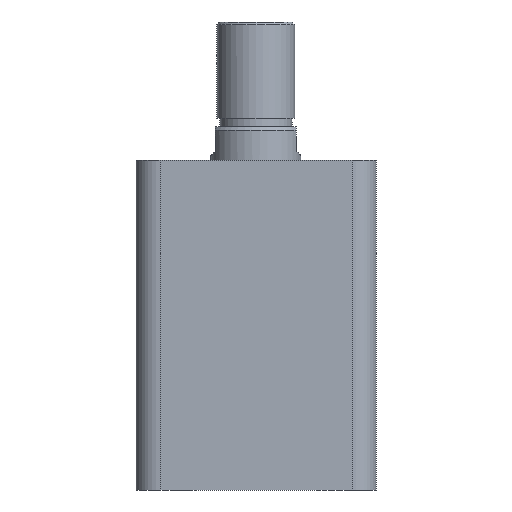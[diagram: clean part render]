
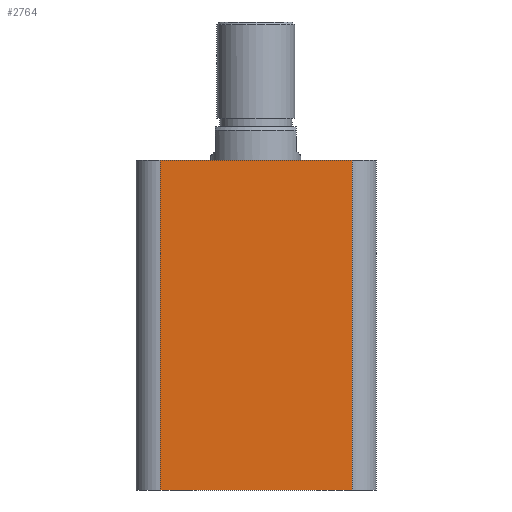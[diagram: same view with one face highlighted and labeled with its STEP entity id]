
A CAD part, front view. The second image highlights one B-rep face of the part: STEP entity #2764.
In plain terms, the highlighted planar face has unit normal (0, -1, 0).
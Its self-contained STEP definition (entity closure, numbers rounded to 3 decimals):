
#48 = DIRECTION ( 'NONE',  ( 1., 0., 0. ) ) ;
#50 = CARTESIAN_POINT ( 'NONE',  ( -40., -40., 110. ) ) ;
#51 = DIRECTION ( 'NONE',  ( 0., 0., -1. ) ) ;
#54 = CARTESIAN_POINT ( 'NONE',  ( -32., -40., 110. ) ) ;
#59 = DIRECTION ( 'NONE',  ( 1., 0., 0. ) ) ;
#66 = CARTESIAN_POINT ( 'NONE',  ( 32., -40., 110. ) ) ;
#67 = CARTESIAN_POINT ( 'NONE',  ( -40., -40., 0. ) ) ;
#93 = DIRECTION ( 'NONE',  ( 0., 0., 1. ) ) ;
#137 = CARTESIAN_POINT ( 'NONE',  ( -32., -40., 110. ) ) ;
#139 = CARTESIAN_POINT ( 'NONE',  ( -32., -40., 0. ) ) ;
#159 = CARTESIAN_POINT ( 'NONE',  ( 32., -40., 0. ) ) ;
#215 = CARTESIAN_POINT ( 'NONE',  ( 32., -40., 110. ) ) ;
#279 = VERTEX_POINT ( 'NONE', #215 ) ;
#407 = VERTEX_POINT ( 'NONE', #159 ) ;
#469 = VERTEX_POINT ( 'NONE', #139 ) ;
#474 = VERTEX_POINT ( 'NONE', #137 ) ;
#628 = VECTOR ( 'NONE', #48, 1000. ) ;
#630 = VECTOR ( 'NONE', #51, 1000. ) ;
#631 = LINE ( 'NONE', #50, #628 ) ;
#633 = VECTOR ( 'NONE', #59, 1000. ) ;
#637 = LINE ( 'NONE', #66, #640 ) ;
#640 = VECTOR ( 'NONE', #93, 1000. ) ;
#643 = LINE ( 'NONE', #54, #630 ) ;
#645 = LINE ( 'NONE', #67, #633 ) ;
#680 = EDGE_CURVE ( 'NONE', #407, #279, #637, .T. ) ;
#681 = EDGE_CURVE ( 'NONE', #469, #407, #645, .T. ) ;
#682 = EDGE_CURVE ( 'NONE', #474, #469, #643, .T. ) ;
#683 = EDGE_CURVE ( 'NONE', #474, #279, #631, .T. ) ;
#1497 = EDGE_LOOP ( 'NONE', ( #1661, #1662, #1663, #1664 ) ) ;
#1661 = ORIENTED_EDGE ( 'NONE', *, *, #683, .F. ) ;
#1662 = ORIENTED_EDGE ( 'NONE', *, *, #682, .T. ) ;
#1663 = ORIENTED_EDGE ( 'NONE', *, *, #681, .T. ) ;
#1664 = ORIENTED_EDGE ( 'NONE', *, *, #680, .T. ) ;
#2153 = FACE_OUTER_BOUND ( 'NONE', #1497, .T. ) ;
#2209 = DIRECTION ( 'NONE',  ( 0., 1., 0. ) ) ;
#2211 = PLANE ( 'NONE',  #2599 ) ;
#2214 = DIRECTION ( 'NONE',  ( 0., 0., 1. ) ) ;
#2219 = CARTESIAN_POINT ( 'NONE',  ( -40., -40., 110. ) ) ;
#2599 = AXIS2_PLACEMENT_3D ( 'NONE', #2219, #2209, #2214 ) ;
#2764 = ADVANCED_FACE ( 'NONE', ( #2153 ), #2211, .F. ) ;
